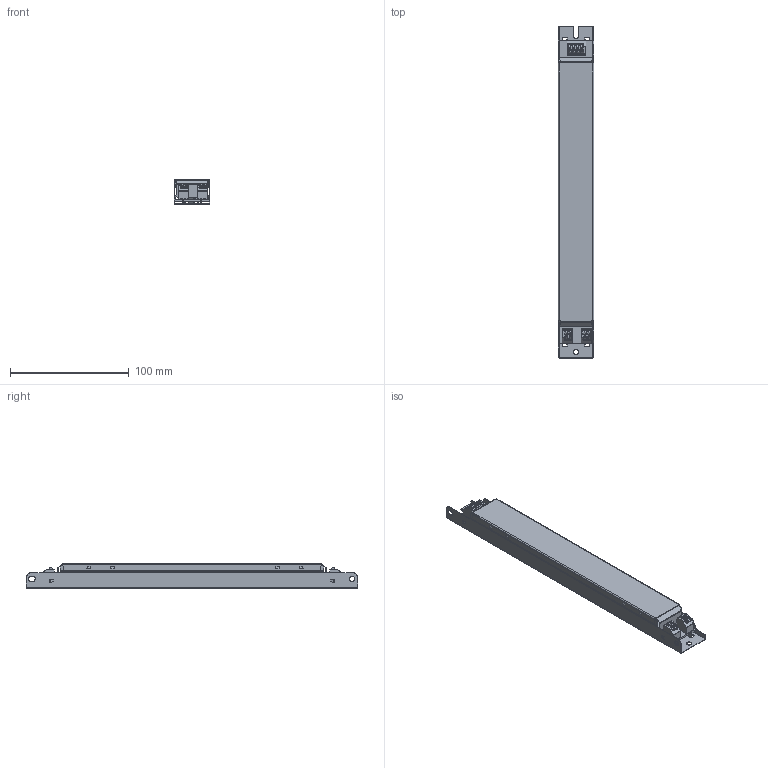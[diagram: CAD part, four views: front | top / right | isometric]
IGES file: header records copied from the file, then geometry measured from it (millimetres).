
Start section: SolidWorks IGES file using analytic representation for surfaces
Global section: file name: C:\Users\vuorinen_kari\Desktop\prj\LL25SE-CC-150-500\LL25SE-CC-150-500.IGS; native system: SolidWorks 2014; preprocessor: SolidWorks 2014; author: vuorinen_kari; date: 181217.111909; units: millimetre
Bounding box: 30.08 x 280 x 20.8 mm (x, y, z)
Surface area: 74251.1 mm2 (no closed solid volume)
Topology: 0 solids, 0 shells, 841 faces, 6289 edges, 6289 vertices
Faces by surface type: bspline 591, revolution 250
